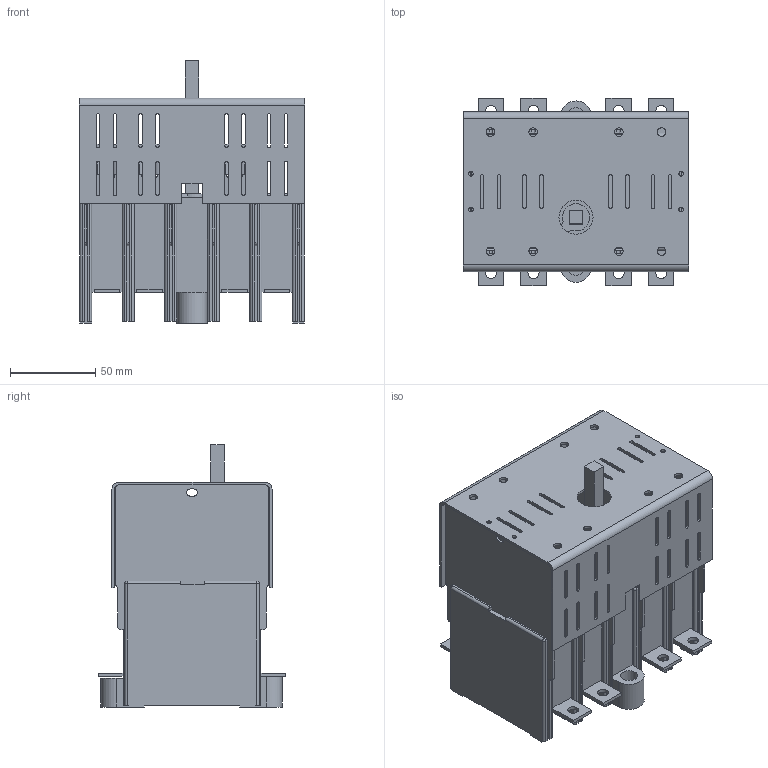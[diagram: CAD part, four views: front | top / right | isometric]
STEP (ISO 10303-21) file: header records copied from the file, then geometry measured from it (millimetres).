
FILE_DESCRIPTION(/* description */ (''),/* implementation_level */ '2;1');
FILE_NAME(/* name */ 'RAB 000 P3 N, P4.stp',/* time_stamp */ '2021-08-19T09:44:50+02:00',/* author */ (''),/* organization */ (''),/* preprocessor_version */ 'ST-DEVELOPER v18.1',/* originating_system */ 'SIEMENS PLM Software NX 1965',/* authorisation */ '');
FILE_SCHEMA (('AUTOMOTIVE_DESIGN { 1 0 10303 214 3 1 1 1 }'));
Length unit declared in the file: millimetre
Products named in the file (1): RAB 000 P3 N, P4_stp
Bounding box: 132.5 x 110 x 154 mm (x, y, z)
Volume: 738723.1 mm3; surface area: 208201.8 mm2
Topology: 1 solids, 1 shells, 1013 faces, 2876 edges, 1846 vertices
Faces by surface type: plane 656, cylinder 333, sphere 23, bspline 1
Full cylindrical faces by diameter (mm): 2.7 x4, 5 x8, 5.8 x2, 6.5 x8, 10 x2, 20 x1
Entity records: 32668 total; most frequent: CARTESIAN_POINT 5967, ORIENTED_EDGE 5634, DIRECTION 5414, EDGE_CURVE 2817, LINE 2084, VECTOR 2084, VERTEX_POINT 1836, AXIS2_PLACEMENT_3D 1665
